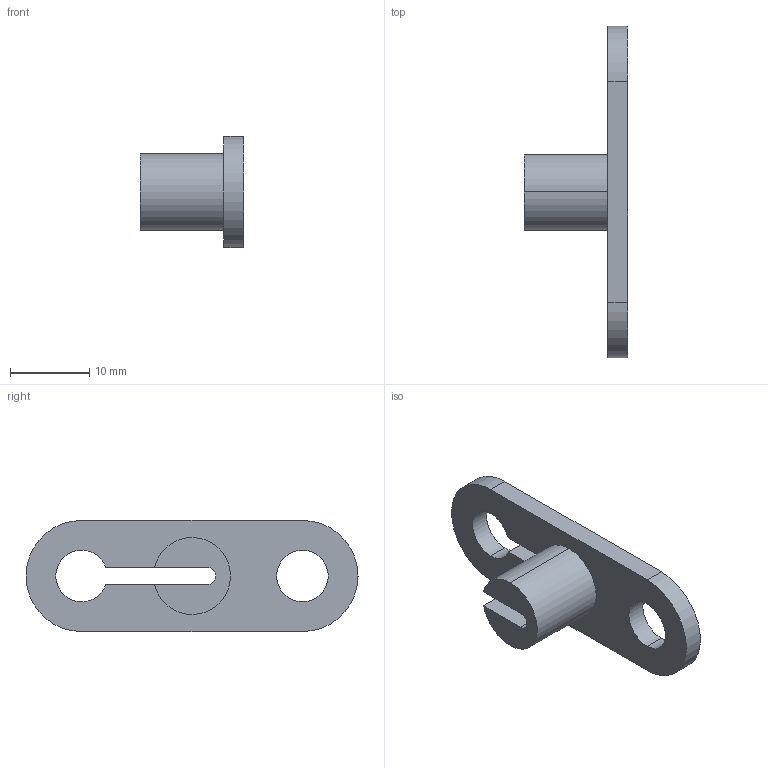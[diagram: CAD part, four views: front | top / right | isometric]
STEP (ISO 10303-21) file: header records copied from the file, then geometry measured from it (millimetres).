
FILE_DESCRIPTION (( 'STEP AP214' ), '1' );
FILE_NAME ('DM-DS-Seilhalter.STEP', '2017-09-21T08:40:33', ( '' ), ( '' ), 'SwSTEP 2.0', 'SolidWorks 2015', '' );
FILE_SCHEMA (( 'AUTOMOTIVE_DESIGN' ));
Length unit declared in the file: millimetre
Products named in the file (1): DM-DS-Seilhalter
Bounding box: 13 x 41.85 x 14 mm (x, y, z)
Volume: 1725.9 mm3; surface area: 1787.5 mm2
Topology: 1 solids, 1 shells, 18 faces, 48 edges, 32 vertices
Faces by surface type: cylinder 11, plane 7
Entity records: 616 total; most frequent: DIRECTION 108, CARTESIAN_POINT 99, ORIENTED_EDGE 96, EDGE_CURVE 48, AXIS2_PLACEMENT_3D 41, VERTEX_POINT 32, LINE 26, VECTOR 26
